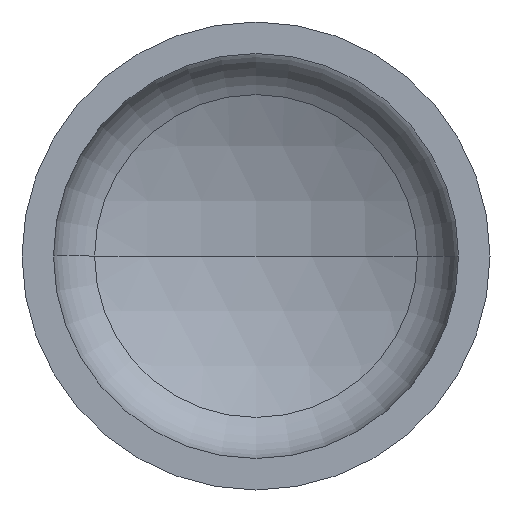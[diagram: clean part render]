
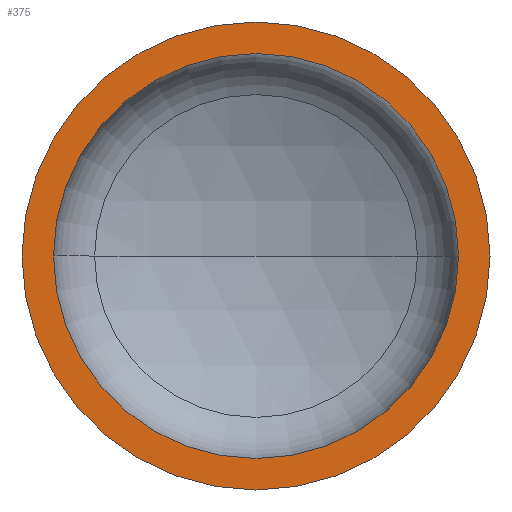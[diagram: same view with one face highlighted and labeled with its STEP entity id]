
A CAD part, front view. The second image highlights one B-rep face of the part: STEP entity #375.
In plain terms, the highlighted planar face has unit normal (0, -1, 0).
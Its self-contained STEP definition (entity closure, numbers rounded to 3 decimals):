
#4 = AXIS2_PLACEMENT_3D ( 'NONE', #289, #99, #154 ) ;
#13 = EDGE_LOOP ( 'NONE', ( #32, #123 ) ) ;
#18 = AXIS2_PLACEMENT_3D ( 'NONE', #337, #169, #173 ) ;
#28 = CARTESIAN_POINT ( 'NONE',  ( 0., 0., 0. ) ) ;
#32 = ORIENTED_EDGE ( 'NONE', *, *, #77, .T. ) ;
#39 = VERTEX_POINT ( 'NONE', #253 ) ;
#48 = DIRECTION ( 'NONE',  ( 1., 0., 0. ) ) ;
#52 = DIRECTION ( 'NONE',  ( 0., -1., 0. ) ) ;
#55 = AXIS2_PLACEMENT_3D ( 'NONE', #28, #52, #48 ) ;
#60 = AXIS2_PLACEMENT_3D ( 'NONE', #310, #295, #293 ) ;
#62 = EDGE_LOOP ( 'NONE', ( #108, #87 ) ) ;
#75 = AXIS2_PLACEMENT_3D ( 'NONE', #248, #241, #237 ) ;
#77 = EDGE_CURVE ( 'NONE', #112, #130, #236, .T. ) ;
#87 = ORIENTED_EDGE ( 'NONE', *, *, #327, .F. ) ;
#92 = EDGE_CURVE ( 'NONE', #130, #112, #398, .T. ) ;
#99 = DIRECTION ( 'NONE',  ( 0., 1., 0. ) ) ;
#108 = ORIENTED_EDGE ( 'NONE', *, *, #355, .F. ) ;
#112 = VERTEX_POINT ( 'NONE', #189 ) ;
#123 = ORIENTED_EDGE ( 'NONE', *, *, #92, .T. ) ;
#125 = CIRCLE ( 'NONE', #55, 476. ) ;
#126 = VERTEX_POINT ( 'NONE', #221 ) ;
#130 = VERTEX_POINT ( 'NONE', #195 ) ;
#154 = DIRECTION ( 'NONE',  ( -1., 0., 0. ) ) ;
#169 = DIRECTION ( 'NONE',  ( 0., -1., 0. ) ) ;
#170 = PLANE ( 'NONE',  #4 ) ;
#173 = DIRECTION ( 'NONE',  ( 1., 0., 0. ) ) ;
#189 = CARTESIAN_POINT ( 'NONE',  ( 550., 0., 0. ) ) ;
#195 = CARTESIAN_POINT ( 'NONE',  ( -550., 0., 0. ) ) ;
#221 = CARTESIAN_POINT ( 'NONE',  ( 476., 0., 0. ) ) ;
#236 = CIRCLE ( 'NONE', #75, 550. ) ;
#237 = DIRECTION ( 'NONE',  ( 1., 0., 0. ) ) ;
#241 = DIRECTION ( 'NONE',  ( 0., -1., 0. ) ) ;
#248 = CARTESIAN_POINT ( 'NONE',  ( 0., 0., 0. ) ) ;
#253 = CARTESIAN_POINT ( 'NONE',  ( -476., 0., 0. ) ) ;
#283 = FACE_BOUND ( 'NONE', #62, .T. ) ;
#289 = CARTESIAN_POINT ( 'NONE',  ( -550., 0., 0. ) ) ;
#293 = DIRECTION ( 'NONE',  ( 1., 0., 0. ) ) ;
#295 = DIRECTION ( 'NONE',  ( 0., -1., 0. ) ) ;
#310 = CARTESIAN_POINT ( 'NONE',  ( 0., 0., 0. ) ) ;
#327 = EDGE_CURVE ( 'NONE', #39, #126, #125, .T. ) ;
#337 = CARTESIAN_POINT ( 'NONE',  ( 0., 0., 0. ) ) ;
#355 = EDGE_CURVE ( 'NONE', #126, #39, #406, .T. ) ;
#375 = ADVANCED_FACE ( 'NONE', ( #283, #400 ), #170, .F. ) ;
#398 = CIRCLE ( 'NONE', #60, 550. ) ;
#400 = FACE_OUTER_BOUND ( 'NONE', #13, .T. ) ;
#406 = CIRCLE ( 'NONE', #18, 476. ) ;
